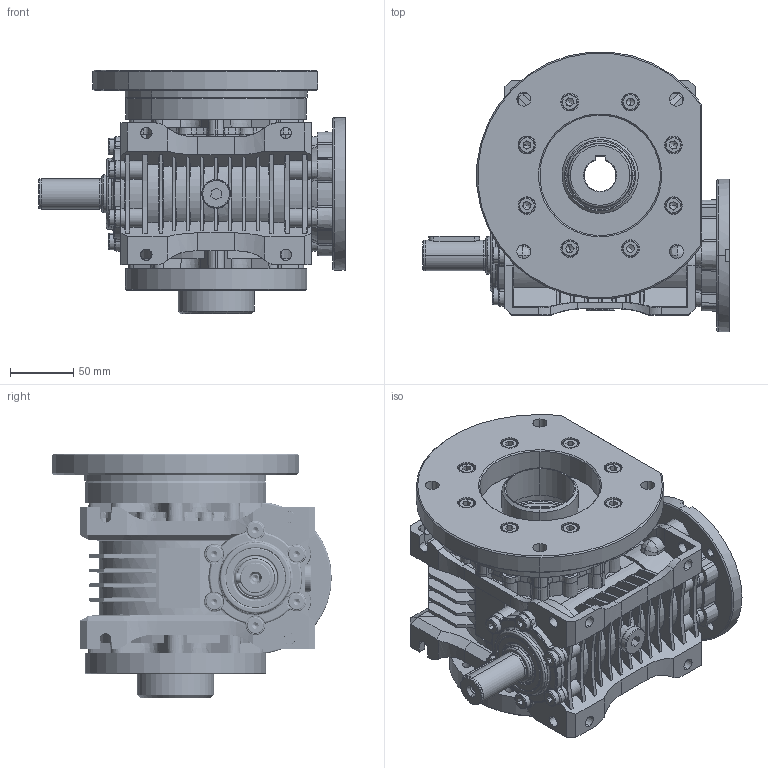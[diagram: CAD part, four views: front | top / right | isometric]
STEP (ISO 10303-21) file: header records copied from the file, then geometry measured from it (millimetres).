
FILE_DESCRIPTION (( 'STEP AP203' ), '1' );
FILE_NAME ('MRP-63_120-19-WBS-SO_1-KM_2-3D.STEP', '2024-10-28T13:46:58', ( '' ), ( '' ), 'SwSTEP 2.0', 'SolidWorks 2022', '' );
FILE_SCHEMA (( 'CONFIG_CONTROL_DESIGN' ));
Length unit declared in the file: millimetre
Products named in the file (1): MRP-63_120-19-WBS-SO_1-KM_2-3D
Bounding box: 242 x 220.36 x 192 mm (x, y, z)
Volume: 2975017.6 mm3; surface area: 472699.9 mm2
Topology: 1 solids, 105 shells, 4056 faces, 10066 edges, 6230 vertices
Faces by surface type: plane 1406, cone 1116, cylinder 702, torus 401, bspline 393, sphere 38
Entity records: 132062 total; most frequent: CARTESIAN_POINT 39047, ORIENTED_EDGE 19844, DIRECTION 19233, EDGE_CURVE 9922, AXIS2_PLACEMENT_3D 7635, VERTEX_POINT 6230, EDGE_LOOP 4342, ADVANCED_FACE 4056
